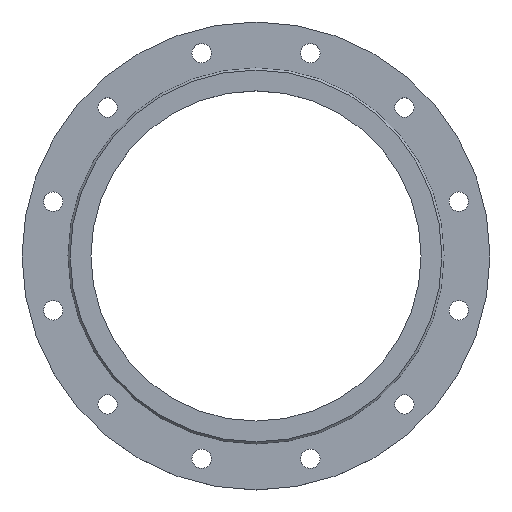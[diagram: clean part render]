
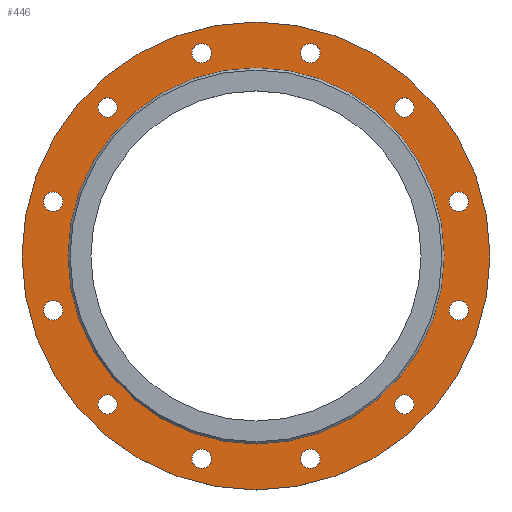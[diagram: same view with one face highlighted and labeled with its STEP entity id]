
A CAD part, top view. The second image highlights one B-rep face of the part: STEP entity #446.
In plain terms, the highlighted planar face has unit normal (0, 0, 1).
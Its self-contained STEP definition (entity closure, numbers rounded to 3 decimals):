
#16=FACE_BOUND('',#78,.T.);
#17=FACE_BOUND('',#79,.T.);
#18=FACE_BOUND('',#80,.T.);
#19=FACE_BOUND('',#81,.T.);
#20=FACE_BOUND('',#82,.T.);
#21=FACE_BOUND('',#83,.T.);
#22=FACE_BOUND('',#84,.T.);
#23=FACE_BOUND('',#85,.T.);
#24=FACE_BOUND('',#86,.T.);
#25=FACE_BOUND('',#87,.T.);
#26=FACE_BOUND('',#88,.T.);
#27=FACE_BOUND('',#89,.T.);
#28=FACE_BOUND('',#90,.T.);
#43=PLANE('',#523);
#59=FACE_OUTER_BOUND('',#77,.T.);
#77=EDGE_LOOP('',(#360,#361));
#78=EDGE_LOOP('',(#362));
#79=EDGE_LOOP('',(#363));
#80=EDGE_LOOP('',(#364));
#81=EDGE_LOOP('',(#365));
#82=EDGE_LOOP('',(#366));
#83=EDGE_LOOP('',(#367));
#84=EDGE_LOOP('',(#368));
#85=EDGE_LOOP('',(#369));
#86=EDGE_LOOP('',(#370));
#87=EDGE_LOOP('',(#371));
#88=EDGE_LOOP('',(#372));
#89=EDGE_LOOP('',(#373));
#90=EDGE_LOOP('',(#374,#375));
#144=CIRCLE('',#478,13.5);
#147=CIRCLE('',#482,13.5);
#150=CIRCLE('',#486,13.5);
#153=CIRCLE('',#490,13.5);
#156=CIRCLE('',#494,13.5);
#159=CIRCLE('',#498,13.5);
#162=CIRCLE('',#502,13.5);
#165=CIRCLE('',#506,13.5);
#168=CIRCLE('',#510,13.5);
#171=CIRCLE('',#514,13.5);
#174=CIRCLE('',#518,13.5);
#177=CIRCLE('',#522,13.5);
#178=CIRCLE('',#524,326.);
#179=CIRCLE('',#525,326.);
#180=CIRCLE('',#526,262.);
#181=CIRCLE('',#527,262.);
#191=VERTEX_POINT('',#697);
#194=VERTEX_POINT('',#705);
#197=VERTEX_POINT('',#713);
#200=VERTEX_POINT('',#721);
#203=VERTEX_POINT('',#729);
#206=VERTEX_POINT('',#737);
#209=VERTEX_POINT('',#745);
#212=VERTEX_POINT('',#753);
#215=VERTEX_POINT('',#761);
#218=VERTEX_POINT('',#769);
#221=VERTEX_POINT('',#777);
#224=VERTEX_POINT('',#785);
#225=VERTEX_POINT('',#789);
#226=VERTEX_POINT('',#790);
#227=VERTEX_POINT('',#793);
#228=VERTEX_POINT('',#794);
#240=EDGE_CURVE('',#191,#191,#144,.T.);
#244=EDGE_CURVE('',#194,#194,#147,.T.);
#248=EDGE_CURVE('',#197,#197,#150,.T.);
#252=EDGE_CURVE('',#200,#200,#153,.T.);
#256=EDGE_CURVE('',#203,#203,#156,.T.);
#260=EDGE_CURVE('',#206,#206,#159,.T.);
#264=EDGE_CURVE('',#209,#209,#162,.T.);
#268=EDGE_CURVE('',#212,#212,#165,.T.);
#272=EDGE_CURVE('',#215,#215,#168,.T.);
#276=EDGE_CURVE('',#218,#218,#171,.T.);
#280=EDGE_CURVE('',#221,#221,#174,.T.);
#284=EDGE_CURVE('',#224,#224,#177,.T.);
#285=EDGE_CURVE('',#225,#226,#178,.T.);
#286=EDGE_CURVE('',#226,#225,#179,.T.);
#287=EDGE_CURVE('',#227,#228,#180,.T.);
#288=EDGE_CURVE('',#228,#227,#181,.T.);
#360=ORIENTED_EDGE('',*,*,#285,.F.);
#361=ORIENTED_EDGE('',*,*,#286,.F.);
#362=ORIENTED_EDGE('',*,*,#240,.T.);
#363=ORIENTED_EDGE('',*,*,#244,.T.);
#364=ORIENTED_EDGE('',*,*,#248,.T.);
#365=ORIENTED_EDGE('',*,*,#252,.T.);
#366=ORIENTED_EDGE('',*,*,#256,.T.);
#367=ORIENTED_EDGE('',*,*,#260,.T.);
#368=ORIENTED_EDGE('',*,*,#264,.T.);
#369=ORIENTED_EDGE('',*,*,#268,.T.);
#370=ORIENTED_EDGE('',*,*,#272,.T.);
#371=ORIENTED_EDGE('',*,*,#276,.T.);
#372=ORIENTED_EDGE('',*,*,#280,.T.);
#373=ORIENTED_EDGE('',*,*,#284,.T.);
#374=ORIENTED_EDGE('',*,*,#287,.T.);
#375=ORIENTED_EDGE('',*,*,#288,.T.);
#446=ADVANCED_FACE('',(#59,#16,#17,#18,#19,#20,#21,#22,#23,#24,#25,#26,
#27,#28),#43,.F.);
#478=AXIS2_PLACEMENT_3D('',#699,#554,#555);
#482=AXIS2_PLACEMENT_3D('',#707,#563,#564);
#486=AXIS2_PLACEMENT_3D('',#715,#572,#573);
#490=AXIS2_PLACEMENT_3D('',#723,#581,#582);
#494=AXIS2_PLACEMENT_3D('',#731,#590,#591);
#498=AXIS2_PLACEMENT_3D('',#739,#599,#600);
#502=AXIS2_PLACEMENT_3D('',#747,#608,#609);
#506=AXIS2_PLACEMENT_3D('',#755,#617,#618);
#510=AXIS2_PLACEMENT_3D('',#763,#626,#627);
#514=AXIS2_PLACEMENT_3D('',#771,#635,#636);
#518=AXIS2_PLACEMENT_3D('',#779,#644,#645);
#522=AXIS2_PLACEMENT_3D('',#787,#653,#654);
#523=AXIS2_PLACEMENT_3D('',#788,#655,#656);
#524=AXIS2_PLACEMENT_3D('',#791,#657,#658);
#525=AXIS2_PLACEMENT_3D('',#792,#659,#660);
#526=AXIS2_PLACEMENT_3D('',#795,#661,#662);
#527=AXIS2_PLACEMENT_3D('',#796,#663,#664);
#554=DIRECTION('center_axis',(0.,0.,-1.));
#555=DIRECTION('ref_axis',(-0.866,0.5,0.));
#563=DIRECTION('center_axis',(0.,0.,-1.));
#564=DIRECTION('ref_axis',(-0.5,0.866,0.));
#572=DIRECTION('center_axis',(0.,0.,-1.));
#573=DIRECTION('ref_axis',(0.,1.,0.));
#581=DIRECTION('center_axis',(0.,0.,-1.));
#582=DIRECTION('ref_axis',(0.5,0.866,0.));
#590=DIRECTION('center_axis',(0.,0.,-1.));
#591=DIRECTION('ref_axis',(0.866,0.5,0.));
#599=DIRECTION('center_axis',(0.,0.,-1.));
#600=DIRECTION('ref_axis',(1.,0.,0.));
#608=DIRECTION('center_axis',(0.,0.,-1.));
#609=DIRECTION('ref_axis',(0.866,-0.5,0.));
#617=DIRECTION('center_axis',(0.,0.,-1.));
#618=DIRECTION('ref_axis',(0.5,-0.866,0.));
#626=DIRECTION('center_axis',(0.,0.,-1.));
#627=DIRECTION('ref_axis',(0.,-1.,0.));
#635=DIRECTION('center_axis',(0.,0.,-1.));
#636=DIRECTION('ref_axis',(-0.5,-0.866,0.));
#644=DIRECTION('center_axis',(0.,0.,-1.));
#645=DIRECTION('ref_axis',(-0.866,-0.5,0.));
#653=DIRECTION('center_axis',(0.,0.,-1.));
#654=DIRECTION('ref_axis',(-1.,0.,0.));
#655=DIRECTION('center_axis',(0.,0.,-1.));
#656=DIRECTION('ref_axis',(-1.,0.,0.));
#657=DIRECTION('center_axis',(0.,0.,-1.));
#658=DIRECTION('ref_axis',(1.,0.,0.));
#659=DIRECTION('center_axis',(0.,0.,-1.));
#660=DIRECTION('ref_axis',(1.,0.,0.));
#661=DIRECTION('center_axis',(0.,0.,-1.));
#662=DIRECTION('ref_axis',(1.,0.,0.));
#663=DIRECTION('center_axis',(0.,0.,-1.));
#664=DIRECTION('ref_axis',(1.,0.,0.));
#697=CARTESIAN_POINT('',(-195.137,-213.579,-3.));
#699=CARTESIAN_POINT('Origin',(-206.829,-206.829,-3.));
#705=CARTESIAN_POINT('',(-275.783,-87.396,-3.));
#707=CARTESIAN_POINT('Origin',(-282.533,-75.705,-3.));
#713=CARTESIAN_POINT('',(-282.533,62.205,-3.));
#715=CARTESIAN_POINT('Origin',(-282.533,75.705,-3.));
#721=CARTESIAN_POINT('',(-213.579,195.137,-3.));
#723=CARTESIAN_POINT('Origin',(-206.829,206.829,-3.));
#729=CARTESIAN_POINT('',(-87.396,275.783,-3.));
#731=CARTESIAN_POINT('Origin',(-75.705,282.533,-3.));
#737=CARTESIAN_POINT('',(62.205,282.533,-3.));
#739=CARTESIAN_POINT('Origin',(75.705,282.533,-3.));
#745=CARTESIAN_POINT('',(195.137,213.579,-3.));
#747=CARTESIAN_POINT('Origin',(206.829,206.829,-3.));
#753=CARTESIAN_POINT('',(275.783,87.396,-3.));
#755=CARTESIAN_POINT('Origin',(282.533,75.705,-3.));
#761=CARTESIAN_POINT('',(282.533,-62.205,-3.));
#763=CARTESIAN_POINT('Origin',(282.533,-75.705,-3.));
#769=CARTESIAN_POINT('',(213.579,-195.137,-3.));
#771=CARTESIAN_POINT('Origin',(206.829,-206.829,-3.));
#777=CARTESIAN_POINT('',(87.396,-275.783,-3.));
#779=CARTESIAN_POINT('Origin',(75.705,-282.533,-3.));
#785=CARTESIAN_POINT('',(-62.205,-282.533,-3.));
#787=CARTESIAN_POINT('Origin',(-75.705,-282.533,-3.));
#788=CARTESIAN_POINT('Origin',(262.,0.,-3.));
#789=CARTESIAN_POINT('',(326.,0.,-3.));
#790=CARTESIAN_POINT('',(-326.,0.,-3.));
#791=CARTESIAN_POINT('Origin',(0.,0.,-3.));
#792=CARTESIAN_POINT('Origin',(0.,0.,-3.));
#793=CARTESIAN_POINT('',(262.,0.,-3.));
#794=CARTESIAN_POINT('',(-262.,0.,-3.));
#795=CARTESIAN_POINT('Origin',(0.,0.,-3.));
#796=CARTESIAN_POINT('Origin',(0.,0.,-3.));
